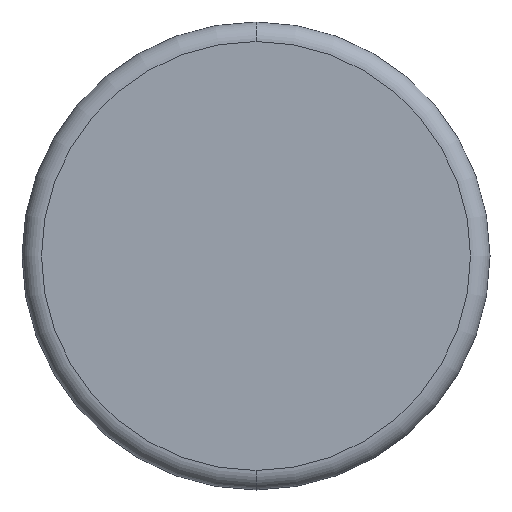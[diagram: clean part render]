
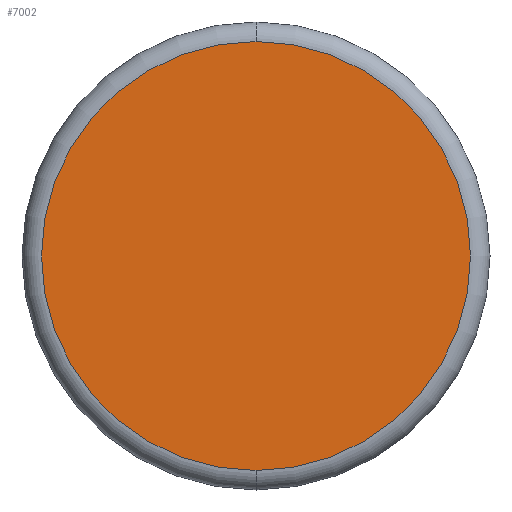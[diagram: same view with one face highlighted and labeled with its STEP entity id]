
A CAD part, front view. The second image highlights one B-rep face of the part: STEP entity #7002.
In plain terms, the highlighted planar face has unit normal (0, -1, 0).
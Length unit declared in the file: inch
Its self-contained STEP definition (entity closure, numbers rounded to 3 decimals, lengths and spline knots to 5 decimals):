
#165 = EDGE_CURVE ( 'NONE', #3790, #575, #3405, .T. ) ;
#176 = DIRECTION ( 'NONE',  ( 0., 0., -1. ) ) ;
#350 = CIRCLE ( 'NONE', #7576, 0.6875 ) ;
#575 = VERTEX_POINT ( 'NONE', #8502 ) ;
#869 = PLANE ( 'NONE',  #3467 ) ;
#1486 = ORIENTED_EDGE ( 'NONE', *, *, #165, .T. ) ;
#1815 = AXIS2_PLACEMENT_3D ( 'NONE', #8749, #5827, #2187 ) ;
#2187 = DIRECTION ( 'NONE',  ( 0., 0., -1. ) ) ;
#3005 = DIRECTION ( 'NONE',  ( 0., 0., -1. ) ) ;
#3405 = CIRCLE ( 'NONE', #1815, 0.6875 ) ;
#3467 = AXIS2_PLACEMENT_3D ( 'NONE', #5962, #7270, #176 ) ;
#3505 = FACE_OUTER_BOUND ( 'NONE', #4528, .T. ) ;
#3790 = VERTEX_POINT ( 'NONE', #8186 ) ;
#4528 = EDGE_LOOP ( 'NONE', ( #1486, #7348 ) ) ;
#5827 = DIRECTION ( 'NONE',  ( 0., -1., 0. ) ) ;
#5962 = CARTESIAN_POINT ( 'NONE',  ( 0., 0., 0. ) ) ;
#6106 = EDGE_CURVE ( 'NONE', #575, #3790, #350, .T. ) ;
#7002 = ADVANCED_FACE ( 'NONE', ( #3505 ), #869, .T. ) ;
#7270 = DIRECTION ( 'NONE',  ( 0., -1., 0. ) ) ;
#7331 = CARTESIAN_POINT ( 'NONE',  ( 0., 0., 0. ) ) ;
#7348 = ORIENTED_EDGE ( 'NONE', *, *, #6106, .T. ) ;
#7576 = AXIS2_PLACEMENT_3D ( 'NONE', #7331, #8850, #3005 ) ;
#8186 = CARTESIAN_POINT ( 'NONE',  ( 0., 0., -0.6875 ) ) ;
#8502 = CARTESIAN_POINT ( 'NONE',  ( 0., 0., 0.6875 ) ) ;
#8749 = CARTESIAN_POINT ( 'NONE',  ( 0., 0., 0. ) ) ;
#8850 = DIRECTION ( 'NONE',  ( 0., -1., 0. ) ) ;
